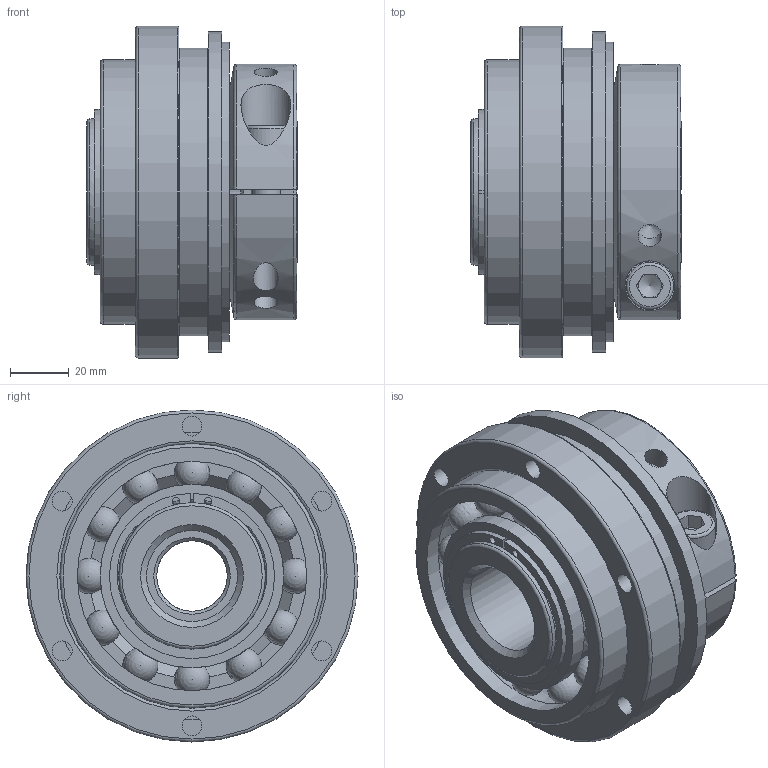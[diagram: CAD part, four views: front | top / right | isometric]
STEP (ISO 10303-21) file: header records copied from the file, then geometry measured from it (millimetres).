
FILE_DESCRIPTION( ( 'Unknown' ), '1' );
FILE_NAME( 'F:/JAKOB-STEP+IGES-Dateien/STEP-Dateien/SKB/SKB 230.stp', 'Unknown', ( 'Unknown' ), ( 'Unknown' ), 'PSStep 10.1', 'Unknown', ' ' );
FILE_SCHEMA( ( 'AUTOMOTIVE_DESIGN { 1 0 10303 214 1 1 1 1 }' ) );
Length unit declared in the file: millimetre
Products named in the file (1): KT100090
Bounding box: 71.5 x 113 x 113 mm (x, y, z)
Volume: 412184.6 mm3; surface area: 90045.5 mm2
Topology: 1 solids, 2 shells, 207 faces, 642 edges, 415 vertices
Faces by surface type: plane 79, cylinder 50, torus 44, cone 20, sphere 12, bspline 2
Full cylindrical faces by diameter (mm): 2.5 x2, 5 x1, 6.8 x6, 8 x3, 8.5 x1, 10 x1, 10.5 x1, 16 x1, 17 x1, 24 x1, 31 x1, 47.5 x1, 49.8 x1, 50 x2, 62 x1, 62.5 x2, 65 x1, 78.1 x2, 90 x2, 93.5 x1, 94 x1, 97.9 x1, 102 x1, 109 x1, 113 x1
Entity records: 9721 total; most frequent: CARTESIAN_POINT 2967, ORIENTED_EDGE 1036, DIRECTION 1016, EDGE_CURVE 518, AXIS2_PLACEMENT_3D 433, VERTEX_POINT 363, EDGE_LOOP 311, FACE_OUTER_BOUND 242
